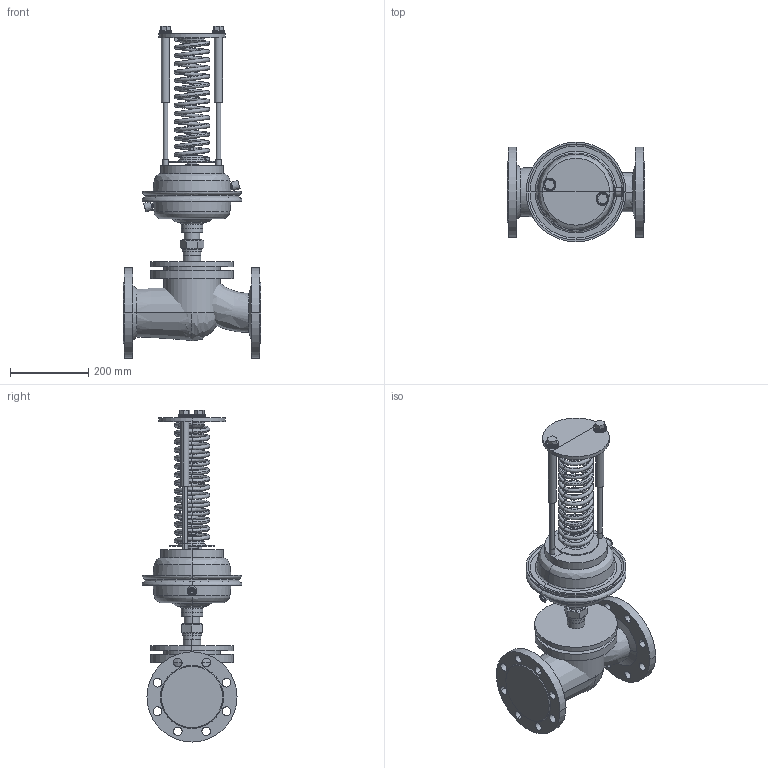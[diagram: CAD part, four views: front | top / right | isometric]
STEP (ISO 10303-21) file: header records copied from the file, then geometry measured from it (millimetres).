
FILE_DESCRIPTION(/* description */ (''),/* implementation_level */ '2;1');
FILE_NAME(/* name */ 'ETM_Регулятордавления_УРРД_НЗ_РД_DN100_PN25 0.01—0.07 МПа',/* time_stamp */ '2026-04-27T12:28:43+03:00',/* author */ (''),/* organization */ (''),/* preprocessor_version */ 'ST-DEVELOPER v20',/* originating_system */ '',/* authorisation */ '');
FILE_SCHEMA (('AP242_MANAGED_MODEL_BASED_3D_ENGINEERING_MIM_LF { 1 0 10303 442 1 1 4 }'));
Length unit declared in the file: millimetre
Products named in the file (13): TopLevelAssembly; Выдавливание; Переход; Выдавливание_
1; Переход_1; Переход_2; Переход_3; Объемная геометрия 
присоединена; Выдавливание_
2; Выдавливание_
3; Объемная геометрия 
присоединена_1; Выдавливание_
4; Пружина желтая
Assembly tree (12 placements, depth 2):
  TopLevelAssembly
    Выдавливание
    Переход
    Выдавливание_
1
    Переход_1
    Переход_2
    Переход_3
    Объемная геометрия 
присоединена
    Выдавливание_
2
    Выдавливание_
3
    Объемная геометрия 
присоединена_1
    Выдавливание_
4
    Пружина желтая
Bounding box: 350 x 255.07 x 847.41 mm (x, y, z)
Volume: 14031596.2 mm3; surface area: 1272506.8 mm2
Topology: 33 solids, 33 shells, 522 faces, 1078 edges, 560 vertices
Faces by surface type: bspline 191, plane 183, cylinder 138, cone 10
Entity records: 17101 total; most frequent: CARTESIAN_POINT 5903, DIRECTION 2372, ORIENTED_EDGE 2064, EDGE_CURVE 1032, AXIS2_PLACEMENT_3D 1008, CIRCLE 651, VERTEX_POINT 560, EDGE_LOOP 558
